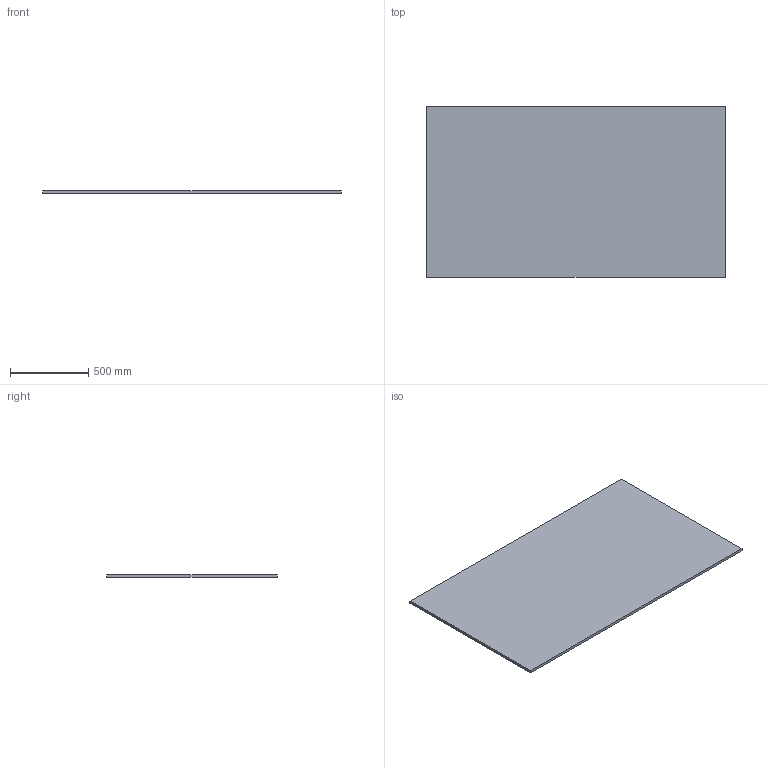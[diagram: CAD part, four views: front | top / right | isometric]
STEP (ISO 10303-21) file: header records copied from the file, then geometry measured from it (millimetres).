
FILE_DESCRIPTION (( 'STEP AP214' ), '1' );
FILE_NAME ('PSCHU0007.STEP', '2025-01-23T11:11:02', ( '' ), ( '' ), 'SwSTEP 2.0', 'SolidWorks 2022', '' );
FILE_SCHEMA (( 'AUTOMOTIVE_DESIGN' ));
Length unit declared in the file: millimetre
Products named in the file (1): PSCHU0007
Bounding box: 1905 x 1087.5 x 18 mm (x, y, z)
Volume: 37290375 mm3; surface area: 4251105 mm2
Topology: 1 solids, 1 shells, 6 faces, 12 edges, 8 vertices
Faces by surface type: plane 6
Entity records: 190 total; most frequent: CARTESIAN_POINT 27, DIRECTION 26, ORIENTED_EDGE 24, VECTOR 12, EDGE_CURVE 12, LINE 12, VERTEX_POINT 8, AXIS2_PLACEMENT_3D 7
